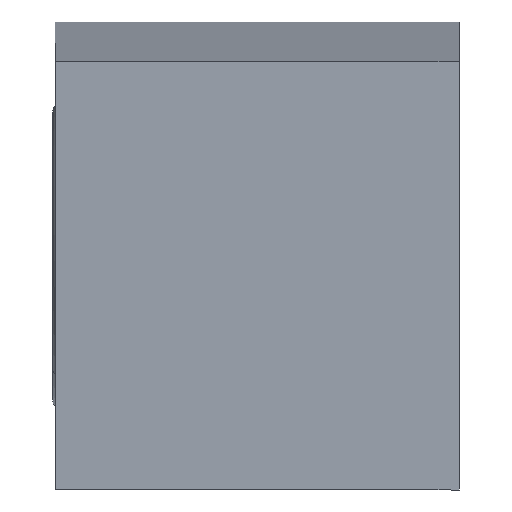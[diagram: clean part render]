
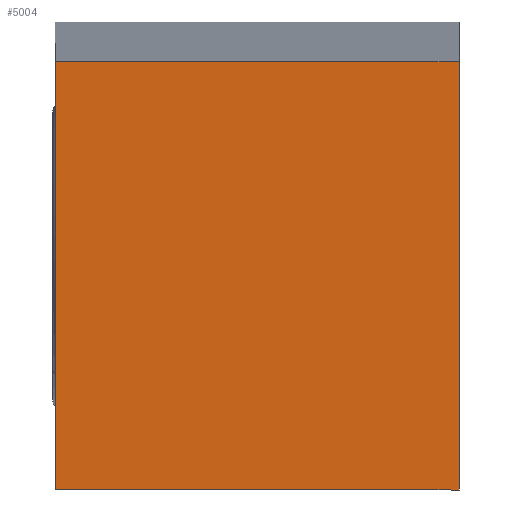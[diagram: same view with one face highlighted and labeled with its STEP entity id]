
A CAD part, front view. The second image highlights one B-rep face of the part: STEP entity #5004.
In plain terms, the highlighted planar face has unit normal (0, -0.998, -0.064).
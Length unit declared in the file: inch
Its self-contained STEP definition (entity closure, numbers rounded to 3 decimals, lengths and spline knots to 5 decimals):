
#23 = CARTESIAN_POINT ( 'NONE',  ( -2.59718, 0.20401, 7.91816 ) ) ;
#111 = VECTOR ( 'NONE', #13394, 39.37008 ) ;
#571 = AXIS2_PLACEMENT_3D ( 'NONE', #15258, #16544, #6701 ) ;
#942 = CARTESIAN_POINT ( 'NONE',  ( -2.59718, 0.47747, 3.67697 ) ) ;
#943 = EDGE_CURVE ( 'NONE', #1927, #5924, #1383, .T. ) ;
#1031 = DIRECTION ( 'NONE',  ( 0., 0.064, -0.998 ) ) ;
#1383 = LINE ( 'NONE', #11131, #1714 ) ;
#1714 = VECTOR ( 'NONE', #10032, 39.37008 ) ;
#1927 = VERTEX_POINT ( 'NONE', #11252 ) ;
#3177 = LINE ( 'NONE', #8844, #16794 ) ;
#3276 = VERTEX_POINT ( 'NONE', #3903 ) ;
#3903 = CARTESIAN_POINT ( 'NONE',  ( -2.59718, 0.20401, 7.91816 ) ) ;
#4665 = ORIENTED_EDGE ( 'NONE', *, *, #11602, .F. ) ;
#4897 = VERTEX_POINT ( 'NONE', #942 ) ;
#5004 = ADVANCED_FACE ( 'NONE', ( #10967 ), #12447, .T. ) ;
#5924 = VERTEX_POINT ( 'NONE', #11743 ) ;
#6701 = DIRECTION ( 'NONE',  ( 0., 0.064, -0.998 ) ) ;
#8099 = EDGE_CURVE ( 'NONE', #3276, #4897, #3177, .T. ) ;
#8437 = EDGE_LOOP ( 'NONE', ( #14037, #4665, #14148, #8514 ) ) ;
#8514 = ORIENTED_EDGE ( 'NONE', *, *, #17634, .T. ) ;
#8844 = CARTESIAN_POINT ( 'NONE',  ( -2.59718, 0.20401, 7.91816 ) ) ;
#10032 = DIRECTION ( 'NONE',  ( 0., 0.064, -0.998 ) ) ;
#10967 = FACE_OUTER_BOUND ( 'NONE', #8437, .T. ) ;
#11131 = CARTESIAN_POINT ( 'NONE',  ( 1.40282, 0.20401, 7.91816 ) ) ;
#11252 = CARTESIAN_POINT ( 'NONE',  ( 1.40282, 0.20401, 7.91816 ) ) ;
#11602 = EDGE_CURVE ( 'NONE', #3276, #1927, #12738, .T. ) ;
#11743 = CARTESIAN_POINT ( 'NONE',  ( 1.40282, 0.47747, 3.67697 ) ) ;
#11908 = LINE ( 'NONE', #17548, #111 ) ;
#12447 = PLANE ( 'NONE',  #571 ) ;
#12738 = LINE ( 'NONE', #23, #15893 ) ;
#13394 = DIRECTION ( 'NONE',  ( 1., 0., 0. ) ) ;
#14037 = ORIENTED_EDGE ( 'NONE', *, *, #943, .F. ) ;
#14148 = ORIENTED_EDGE ( 'NONE', *, *, #8099, .T. ) ;
#14233 = DIRECTION ( 'NONE',  ( 1., 0., 0. ) ) ;
#15258 = CARTESIAN_POINT ( 'NONE',  ( -2.59718, 0.20401, 7.91816 ) ) ;
#15893 = VECTOR ( 'NONE', #14233, 39.37008 ) ;
#16544 = DIRECTION ( 'NONE',  ( 0., -0.998, -0.064 ) ) ;
#16794 = VECTOR ( 'NONE', #1031, 39.37008 ) ;
#17548 = CARTESIAN_POINT ( 'NONE',  ( -2.59718, 0.47747, 3.67697 ) ) ;
#17634 = EDGE_CURVE ( 'NONE', #4897, #5924, #11908, .T. ) ;
